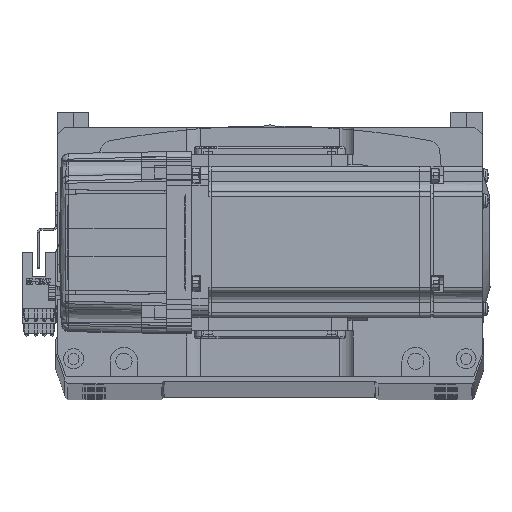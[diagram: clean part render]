
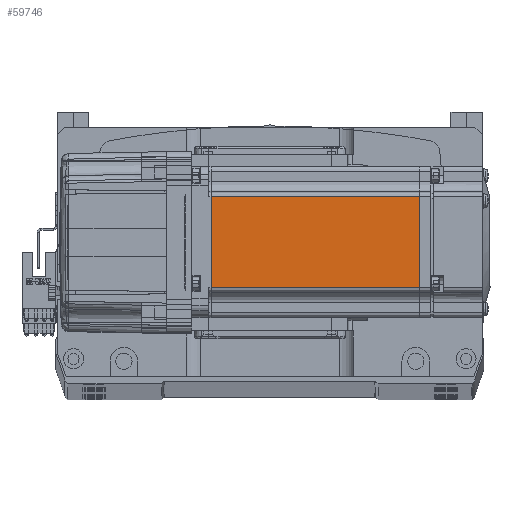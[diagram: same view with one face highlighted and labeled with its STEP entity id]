
A CAD part, top view. The second image highlights one B-rep face of the part: STEP entity #59746.
In plain terms, the highlighted planar face has unit normal (0, 0, 1) as drawn and (0, -1, 0) by its records, which use the part's own axes.
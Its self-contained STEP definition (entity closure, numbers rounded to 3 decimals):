
#813 = EDGE_LOOP ( 'NONE', ( #18032, #58798, #48875, #12909 ) ) ;
#1353 = AXIS2_PLACEMENT_3D ( 'NONE', #42267, #14758, #54395 ) ;
#3343 = VERTEX_POINT ( 'NONE', #37935 ) ;
#10019 = CARTESIAN_POINT ( 'NONE',  ( -6.5, -30., 18. ) ) ;
#12909 = ORIENTED_EDGE ( 'NONE', *, *, #49746, .T. ) ;
#14758 = DIRECTION ( 'NONE',  ( 0., -1., 0. ) ) ;
#18032 = ORIENTED_EDGE ( 'NONE', *, *, #18417, .T. ) ;
#18098 = DIRECTION ( 'NONE',  ( 1., 0., 0. ) ) ;
#18123 = VECTOR ( 'NONE', #18098, 1000. ) ;
#18417 = EDGE_CURVE ( 'NONE', #3343, #18486, #60745, .T. ) ;
#18486 = VERTEX_POINT ( 'NONE', #53003 ) ;
#19395 = VECTOR ( 'NONE', #23563, 1000. ) ;
#23563 = DIRECTION ( 'NONE',  ( 0., 0., 1. ) ) ;
#25098 = EDGE_CURVE ( 'NONE', #18486, #49858, #50958, .T. ) ;
#35930 = VECTOR ( 'NONE', #49089, 1000. ) ;
#36575 = VECTOR ( 'NONE', #52977, 1000. ) ;
#37935 = CARTESIAN_POINT ( 'NONE',  ( -7.75, -30., -18. ) ) ;
#42267 = CARTESIAN_POINT ( 'NONE',  ( -6.5, -30., -25. ) ) ;
#46311 = CARTESIAN_POINT ( 'NONE',  ( -6.5, -30., -18. ) ) ;
#48521 = CARTESIAN_POINT ( 'NONE',  ( -90.45, -30., 18. ) ) ;
#48875 = ORIENTED_EDGE ( 'NONE', *, *, #72214, .T. ) ;
#49089 = DIRECTION ( 'NONE',  ( -1., 0., 0. ) ) ;
#49746 = EDGE_CURVE ( 'NONE', #61461, #3343, #70478, .T. ) ;
#49858 = VERTEX_POINT ( 'NONE', #48521 ) ;
#50958 = LINE ( 'NONE', #10019, #35930 ) ;
#51588 = LINE ( 'NONE', #59430, #36575 ) ;
#52977 = DIRECTION ( 'NONE',  ( 0., 0., -1. ) ) ;
#53003 = CARTESIAN_POINT ( 'NONE',  ( -7.75, -30., 18. ) ) ;
#54381 = CARTESIAN_POINT ( 'NONE',  ( -90.45, -30., -18. ) ) ;
#54395 = DIRECTION ( 'NONE',  ( 0., 0., -1. ) ) ;
#54645 = PLANE ( 'NONE',  #1353 ) ;
#57259 = CARTESIAN_POINT ( 'NONE',  ( -7.75, -30., -25. ) ) ;
#58798 = ORIENTED_EDGE ( 'NONE', *, *, #25098, .T. ) ;
#59430 = CARTESIAN_POINT ( 'NONE',  ( -90.45, -30., -25. ) ) ;
#59746 = ADVANCED_FACE ( 'NONE', ( #69330 ), #54645, .T. ) ;
#60745 = LINE ( 'NONE', #57259, #19395 ) ;
#61461 = VERTEX_POINT ( 'NONE', #54381 ) ;
#69330 = FACE_OUTER_BOUND ( 'NONE', #813, .T. ) ;
#70478 = LINE ( 'NONE', #46311, #18123 ) ;
#72214 = EDGE_CURVE ( 'NONE', #49858, #61461, #51588, .T. ) ;
